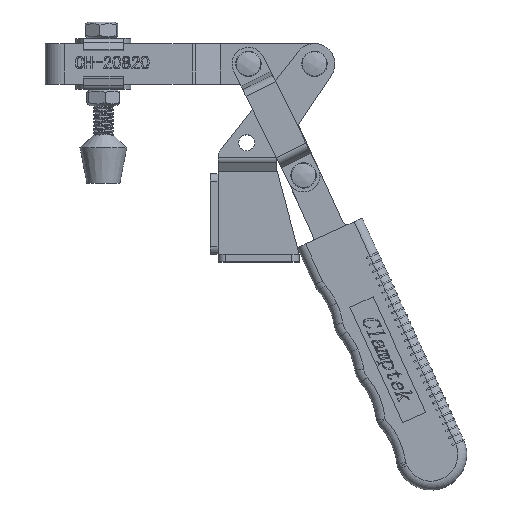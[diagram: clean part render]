
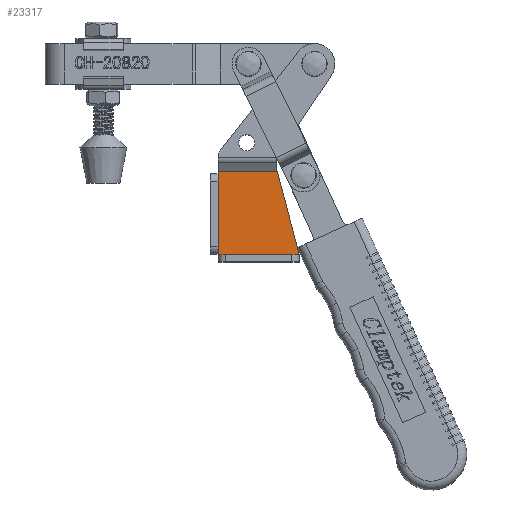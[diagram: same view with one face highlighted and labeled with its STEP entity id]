
A CAD part, top view. The second image highlights one B-rep face of the part: STEP entity #23317.
In plain terms, the highlighted planar face has unit normal (0, 0, 1).
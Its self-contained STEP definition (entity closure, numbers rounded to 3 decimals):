
#2013=PLANE('',#24902);
#3249=FACE_OUTER_BOUND('',#4617,.T.);
#4617=EDGE_LOOP('',(#21211,#21212,#21213,#21214));
#6578=LINE('',#70359,#8579);
#6584=LINE('',#70375,#8585);
#6603=LINE('',#70427,#8604);
#6609=LINE('',#70442,#8610);
#8579=VECTOR('',#29512,1000.);
#8585=VECTOR('',#29524,1000.);
#8604=VECTOR('',#29579,1000.);
#8610=VECTOR('',#29601,1000.);
#11335=VERTEX_POINT('',#70356);
#11336=VERTEX_POINT('',#70358);
#11341=VERTEX_POINT('',#70371);
#11343=VERTEX_POINT('',#70374);
#14645=EDGE_CURVE('',#11335,#11336,#6578,.T.);
#14653=EDGE_CURVE('',#11343,#11341,#6584,.T.);
#14681=EDGE_CURVE('',#11343,#11335,#6603,.T.);
#14688=EDGE_CURVE('',#11341,#11336,#6609,.T.);
#21211=ORIENTED_EDGE('',*,*,#14653,.T.);
#21212=ORIENTED_EDGE('',*,*,#14688,.T.);
#21213=ORIENTED_EDGE('',*,*,#14645,.F.);
#21214=ORIENTED_EDGE('',*,*,#14681,.F.);
#23317=ADVANCED_FACE('',(#3249),#2013,.T.);
#24902=AXIS2_PLACEMENT_3D('',#70441,#29599,#29600);
#29512=DIRECTION('',(0.,1.,0.));
#29524=DIRECTION('',(-0.257,0.966,0.));
#29579=DIRECTION('',(-1.,0.,0.));
#29599=DIRECTION('center_axis',(0.,0.,1.));
#29600=DIRECTION('ref_axis',(0.,-1.,0.));
#29601=DIRECTION('',(-1.,0.,0.));
#70356=CARTESIAN_POINT('',(0.,3.,3.));
#70358=CARTESIAN_POINT('',(0.,35.592,3.));
#70359=CARTESIAN_POINT('',(0.,3.,3.));
#70371=CARTESIAN_POINT('',(23.328,35.592,3.));
#70374=CARTESIAN_POINT('',(32.,3.,3.));
#70375=CARTESIAN_POINT('',(32.,3.,3.));
#70427=CARTESIAN_POINT('',(46.,3.,3.));
#70441=CARTESIAN_POINT('Origin',(46.,3.,3.));
#70442=CARTESIAN_POINT('',(46.,35.592,3.));
